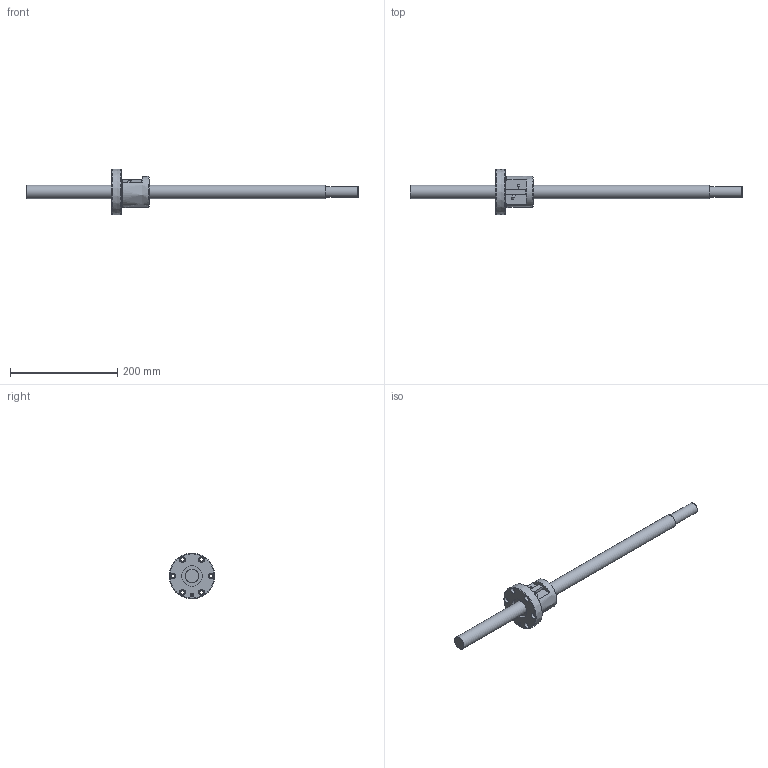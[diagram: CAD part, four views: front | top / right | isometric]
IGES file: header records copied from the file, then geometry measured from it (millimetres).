
Start section: Data from Parasolid IGES Translator 26.0.171, Copyright(c) 2006 Siemens PLM Software. All Rights Reserved.
Global section: file name: BNF2510A-2.5RRG1+620LC5A(00).igs; native system: By Siemens PLM Incorporated; preprocessor: XPlus GENERIC/IGES 26.0.171; author: Noname; organization: Noname; date: 20240715.074536; units: millimetre
Bounding box: 620 x 85 x 85 mm (x, y, z)
Surface area: 83244.9 mm2 (no closed solid volume)
Topology: 0 solids, 0 shells, 66 faces, 298 edges, 268 vertices
Faces by surface type: revolution 42, extrusion 24
